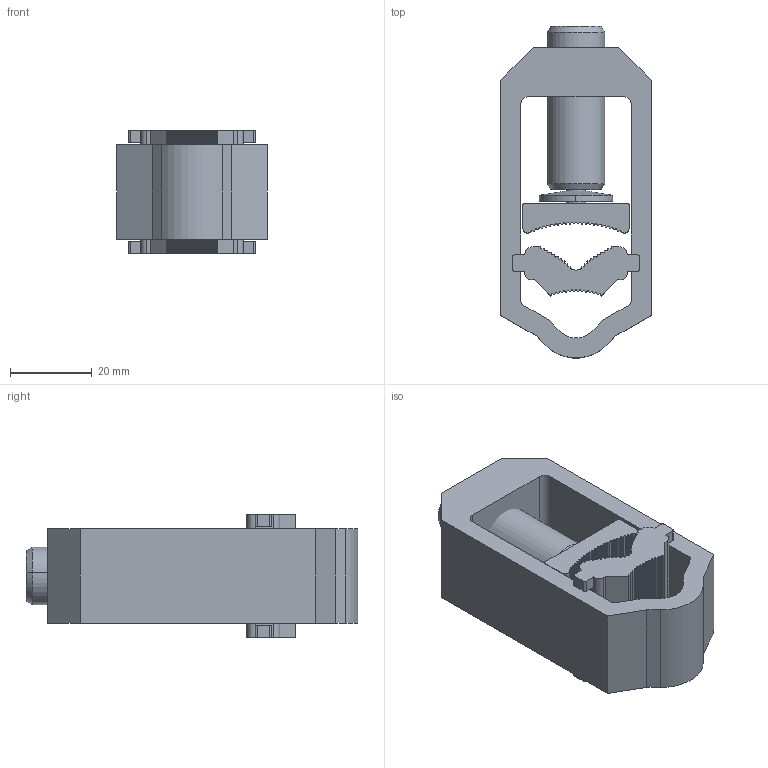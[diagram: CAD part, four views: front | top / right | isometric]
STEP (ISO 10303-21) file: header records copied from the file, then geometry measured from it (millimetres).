
FILE_DESCRIPTION (( 'STEP AP214' ), '1' );
FILE_NAME ('2 70-300SW.STEP', '2010-03-18T12:22:00', ( '£ukaszC' ), ( '' ), 'SwSTEP 2.0', 'SolidWorks 2008', '' );
FILE_SCHEMA (( 'AUTOMOTIVE_DESIGN' ));
Length unit declared in the file: millimetre
Products named in the file (6): 4.2-50-240SW.01.00.00; 4.50240SW.03.00.00; 4.2-50240SW.02.00.00_Domyœlna; 4.2-50240SW.03.00.00; 4.70300SW.02.00.00_Domyœlna; 2 70-300SW
Assembly tree (5 placements, depth 2):
  2 70-300SW
    4.2-50-240SW.01.00.00
    4.50240SW.03.00.00
    4.2-50240SW.02.00.00_Domyœlna
    4.70300SW.02.00.00_Domyœlna
    4.2-50240SW.03.00.00
Bounding box: 36.8 x 81.1 x 30 mm (x, y, z)
Volume: 38943.7 mm3; surface area: 18592.8 mm2
Topology: 5 solids, 5 shells, 463 faces, 1339 edges, 885 vertices
Faces by surface type: cylinder 254, plane 193, cone 16
Entity records: 15740 total; most frequent: CARTESIAN_POINT 3091, ORIENTED_EDGE 2674, DIRECTION 2641, EDGE_CURVE 1337, AXIS2_PLACEMENT_3D 931, VERTEX_POINT 885, VECTOR 779, LINE 779
